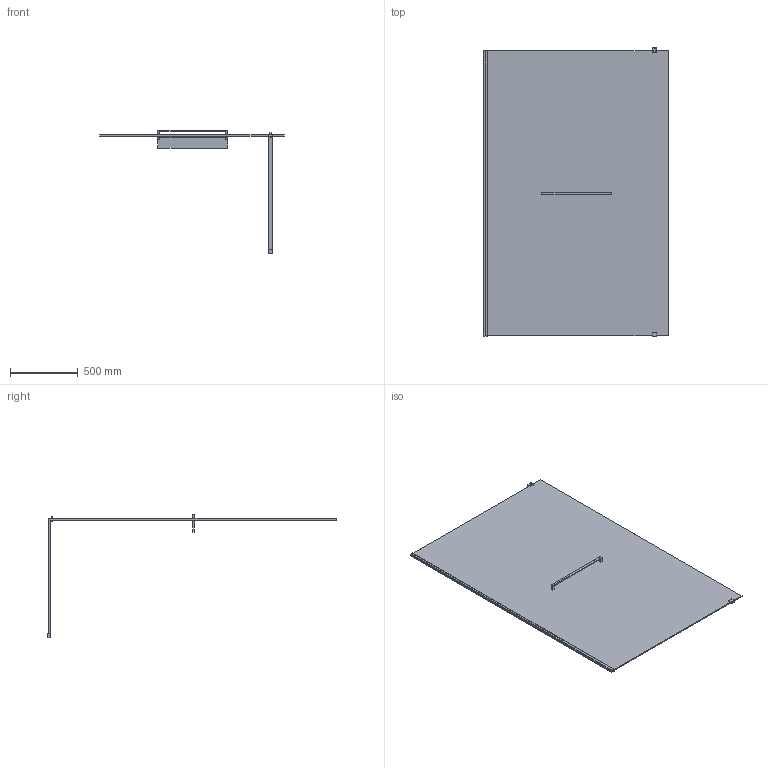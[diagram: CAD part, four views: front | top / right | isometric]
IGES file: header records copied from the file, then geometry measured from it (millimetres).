
Start section: SolidWorks IGES file using analytic representation for surfaces
Global section: file name: D:\Users\M.Szymanski\Desktop\Kabiny\PIII_ALTIIa\03. do przegrania\PIII_ALTIIa_140_z_relingiem_i_polka_K3D.IGS; native system: SolidWorks 2011; preprocessor: SolidWorks 2011; author: M.Szymanski; date: 181005.105148; units: millimetre
Bounding box: 1358.45 x 2128 x 914.13 mm (x, y, z)
Surface area: 6138624.5 mm2 (no closed solid volume)
Topology: 0 solids, 0 shells, 76 faces, 552 edges, 736 vertices
Faces by surface type: bspline 76
